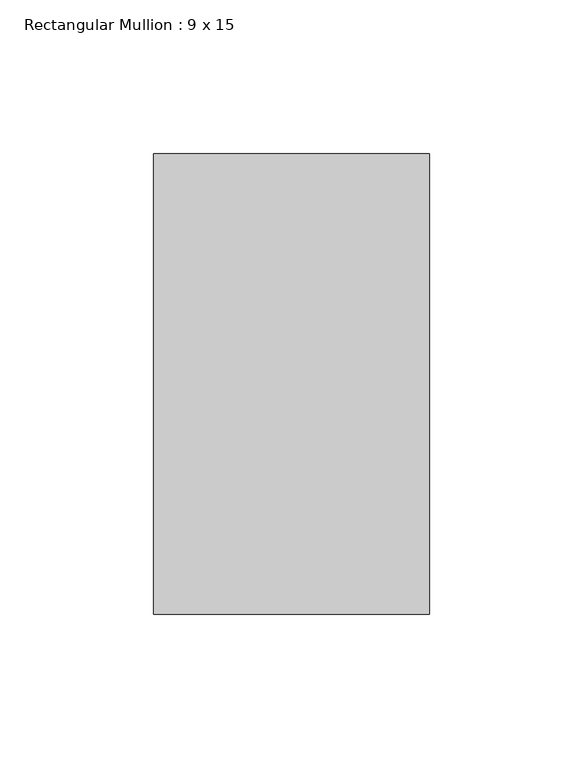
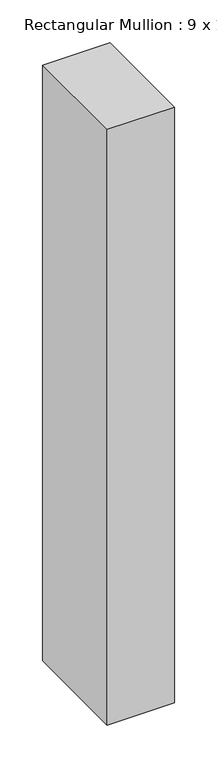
"""IFC4 building model written with IfcOpenShell, lengths in millimetres: member geometry, Rectangular Mullion : 9 x 15."""

import ifcopenshell
import ifcopenshell.guid

model = None  # the IFC model being written
_history = None  # IfcOwnerHistory: only IFC2X3 demands one
_inside = {}  # id of a spatial element -> (the spatial element, [elements in it])
_under = {}  # id of a project, library or spatial element -> (it, [spatial elements below it])
_declared = {}  # id of a project -> (the project, [libraries it declares])
_typed = {}  # id of a type object -> (the type object, [elements of that type])
_made_of = {}  # id of a material, layer set ... -> (it, [elements and type objects made of it])


def new_model(schema):
    """Start an empty IFC model of exactly this schema.

    Asked for "IFC4X3", IfcOpenShell would pick the latest addendum, in which some entities
    have other attributes; the version numbers below select the first issue.
    IFC2X3 requires an IfcOwnerHistory on every rooted entity: one is made here for all.
    """
    global model, _history
    if schema == "IFC4X3":
        model = ifcopenshell.file(schema_version=(4, 3, 0, 0))
    else:
        model = ifcopenshell.file(schema=schema)
    _inside.clear()
    _under.clear()
    _declared.clear()
    _typed.clear()
    _made_of.clear()
    _history = None
    if model.schema == "IFC2X3":
        org = make("IfcOrganization", Name="unknown")
        user = make(
            "IfcPersonAndOrganization",
            ThePerson=make("IfcPerson", FamilyName="unknown"),
            TheOrganization=org,
        )
        app = make(
            "IfcApplication",
            ApplicationDeveloper=org,
            Version="unknown",
            ApplicationFullName="unknown",
            ApplicationIdentifier="unknown",
        )
        _history = make(
            "IfcOwnerHistory",
            OwningUser=user,
            OwningApplication=app,
            ChangeAction="ADDED",
            CreationDate=0,
        )
    return model


def make(cls, **values):
    """One entity of the class cls with the attributes given. An attribute that is None is left unset."""
    return model.create_entity(
        cls, **{name: value for name, value in values.items() if value is not None}
    )


def rooted(cls, **values):
    """An entity with a GlobalId (a new one), such as an element, a storey or a relation."""
    return make(cls, GlobalId=ifcopenshell.guid.new(), OwnerHistory=_history, **values)


def si_unit(unit_type, name, prefix=None):
    """IfcSIUnit, for example si_unit("LENGTHUNIT", "METRE", prefix="MILLI")."""
    return make("IfcSIUnit", UnitType=unit_type, Prefix=prefix, Name=name)


def assignment(units):
    """IfcUnitAssignment: the units of a project."""
    return None if units is None else make("IfcUnitAssignment", Units=units)


def point(xyz):
    """IfcCartesianPoint."""
    return None if xyz is None else make("IfcCartesianPoint", Coordinates=xyz)


def direction(xyz):
    """IfcDirection."""
    return None if xyz is None else make("IfcDirection", DirectionRatios=xyz)


def frame(location, z_axis=None, x_axis=None):
    """IfcAxis2Placement3D, a coordinate frame: its origin and axes. An axis left out is left unset."""
    return make(
        "IfcAxis2Placement3D",
        Location=point(location),
        Axis=direction(z_axis),
        RefDirection=direction(x_axis),
    )


def origin():
    """The frame at (0, 0, 0) with its axes left unset."""
    return frame((0.0, 0.0, 0.0))


def place(relative_to, where):
    """IfcLocalPlacement: puts the frame where relative to a parent placement (None: the world)."""
    return make(
        "IfcLocalPlacement", PlacementRelTo=relative_to, RelativePlacement=where
    )


def context(
    kind, dimensions, precision=None, world=None, true_north=None, identifier=None
):
    """IfcGeometricRepresentationContext, for example the 3D "Model" context."""
    return make(
        "IfcGeometricRepresentationContext",
        ContextIdentifier=identifier,
        ContextType=kind,
        CoordinateSpaceDimension=dimensions,
        Precision=precision,
        WorldCoordinateSystem=world,
        TrueNorth=true_north,
    )


def project(units=None, contexts=None):
    """IfcProject with its units and contexts."""
    return rooted(
        "IfcProject",
        Name="project",
        RepresentationContexts=contexts,
        UnitsInContext=assignment(units),
    )


def spatial(cls, under=None, at=None, **own):
    """A site, building, storey or space (cls), placed at a placement, below another one or the project."""
    s = rooted(cls, ObjectPlacement=at, **own)
    if under is not None:
        _under.setdefault(under.id(), (under, []))[1].append(s)
    return s


def polyline(points):
    """IfcPolyline through the points."""
    return make("IfcPolyline", Points=[point(p) for p in points])


def outline(outer, holes=None, kind="AREA"):
    """IfcArbitraryClosedProfileDef: a profile drawn as a closed curve; with holes, ...WithVoids."""
    if holes is None:
        return make("IfcArbitraryClosedProfileDef", ProfileType=kind, OuterCurve=outer)
    return make(
        "IfcArbitraryProfileDefWithVoids",
        ProfileType=kind,
        OuterCurve=outer,
        InnerCurves=holes,
    )


def extrude(swept, where, along, depth):
    """IfcExtrudedAreaSolid: the profile swept, set in the frame where, extruded along a direction by depth."""
    return make(
        "IfcExtrudedAreaSolid",
        SweptArea=swept,
        Position=where,
        ExtrudedDirection=direction(along),
        Depth=depth,
    )


def shape(context_of_items, identifier, shape_type, items):
    """IfcShapeRepresentation: the items that make up one representation, for example the "Body"."""
    return make(
        "IfcShapeRepresentation",
        ContextOfItems=context_of_items,
        RepresentationIdentifier=identifier,
        RepresentationType=shape_type,
        Items=items,
    )


def source(mapping_origin, context_of_items, identifier, shape_type, items):
    """IfcRepresentationMap: a shape defined once, which mapped items show again and again."""
    return make(
        "IfcRepresentationMap",
        MappingOrigin=mapping_origin,
        MappedRepresentation=shape(context_of_items, identifier, shape_type, items),
    )


def transform(
    local_origin,
    x_axis=None,
    y_axis=None,
    z_axis=None,
    scale=None,
    scale2=None,
    scale3=None,
    uniform=True,
):
    """IfcCartesianTransformationOperator3D, or its non-uniform kind. x_axis, y_axis, z_axis: its Axis1, 2, 3."""
    if uniform:
        return make(
            "IfcCartesianTransformationOperator3D",
            Axis1=direction(x_axis),
            Axis2=direction(y_axis),
            LocalOrigin=point(local_origin),
            Scale=scale,
            Axis3=direction(z_axis),
        )
    return make(
        "IfcCartesianTransformationOperator3DnonUniform",
        Axis1=direction(x_axis),
        Axis2=direction(y_axis),
        LocalOrigin=point(local_origin),
        Scale=scale,
        Axis3=direction(z_axis),
        Scale2=scale2,
        Scale3=scale3,
    )


def mapped(mapping_source, mapping_target):
    """IfcMappedItem: shows the shape of a source again, moved by a transform."""
    return make(
        "IfcMappedItem", MappingSource=mapping_source, MappingTarget=mapping_target
    )


def made_of(thing, what):
    """Note that an element or type object is made of a material, layer set ...; save() writes the relation."""
    if what is not None:
        _made_of.setdefault(what.id(), (what, []))[1].append(thing)
    return thing


def element(
    cls,
    number,
    at=None,
    inside=None,
    cuts=None,
    type_object=None,
    material=None,
    context=None,
    identifier="Body",
    shape_type=None,
    held_by="IfcProductDefinitionShape",
    body=None,
    shapes=None,
    **own,
):
    """One element of the class cls, such as IfcWall. Its Tag is "e" and its number.

    at: its placement. inside: the storey or other place that contains it. cuts: it is an
    opening in that element (IfcRelVoidsElement). A single representation is given by context,
    identifier, shape_type and body (its items); several are given by shapes. held_by: the class
    of the entity that holds the representations. save() writes the other relations.
    """
    e = rooted(cls, Tag="e%d" % number, ObjectPlacement=at, **own)
    if body is not None:
        shapes = [shape(context, identifier, shape_type, body)]
    if shapes is not None:
        e.Representation = make(held_by, Representations=shapes)
    if inside is not None:
        _inside.setdefault(inside.id(), (inside, []))[1].append(e)
    if cuts is not None:
        rooted(
            "IfcRelVoidsElement", RelatingBuildingElement=cuts, RelatedOpeningElement=e
        )
    if type_object is not None:
        _typed.setdefault(type_object.id(), (type_object, []))[1].append(e)
    return made_of(e, material)


def aggregate(whole, parts):
    """IfcRelAggregates: a whole, such as a stair, and the parts it consists of."""
    return rooted("IfcRelAggregates", RelatingObject=whole, RelatedObjects=parts)


def save(model, path):
    """Write the relations noted so far, then the file.

    IfcRelAggregates (storeys below a building ...), IfcRelContainedInSpatialStructure (elements
    in a storey), IfcRelDefinesByType, IfcRelAssociatesMaterial and IfcRelDeclares: one each for
    every whole, place, type object, material and project.
    """
    for whole, parts in _under.values():
        aggregate(whole, parts)
    for where, things in _inside.values():
        rooted(
            "IfcRelContainedInSpatialStructure",
            RelatedElements=things,
            RelatingStructure=where,
        )
    for kind, things in _typed.values():
        rooted("IfcRelDefinesByType", RelatedObjects=things, RelatingType=kind)
    for what, things in _made_of.values():
        rooted("IfcRelAssociatesMaterial", RelatedObjects=things, RelatingMaterial=what)
    for by, libraries in _declared.values():
        rooted("IfcRelDeclares", RelatingContext=by, RelatedDefinitions=libraries)
    model.write(path)


def rectangular_mullion_9_x_15_09303af7(model_context):
    return source(origin(), model_context, "Body", "SweptSolid", [
        extrude(outline(polyline([(45.0, 75.0), (45.0, -75.0), (-45.0, -75.0), (-45.0, 75.0), (45.0, 75.0)])), frame((0.0, 0.0, -845.7910895), z_axis=(0.0, 0.0, 1.0), x_axis=(1.0, 0.0, 0.0)), (0.0, 0.0, 1.0), 845.7910895),
    ])


if __name__ == "__main__":
    model = new_model("IFC4")
    model_context = context("Model", 3, world=origin())
    ifc_project = project(units=[si_unit("LENGTHUNIT", "METRE", prefix="MILLI")], contexts=[model_context])
    site = spatial("IfcSite", under=ifc_project)
    building = spatial("IfcBuilding", under=site)
    placement = place(None, origin())
    rectangular_mullion_9_x_15_shape = rectangular_mullion_9_x_15_09303af7(model_context)
    element("IfcMember", 1, ObjectType="Rectangular Mullion : 9 x 15", at=placement, inside=building, context=model_context, shape_type="MappedRepresentation", body=[
        mapped(rectangular_mullion_9_x_15_shape, transform((0.0, 0.0, 0.0), x_axis=(1.0, 0.0, 0.0), y_axis=(0.0, 1.0, 0.0), z_axis=(0.0, 0.0, 1.0))),
    ])
    save(model, "model.ifc")
